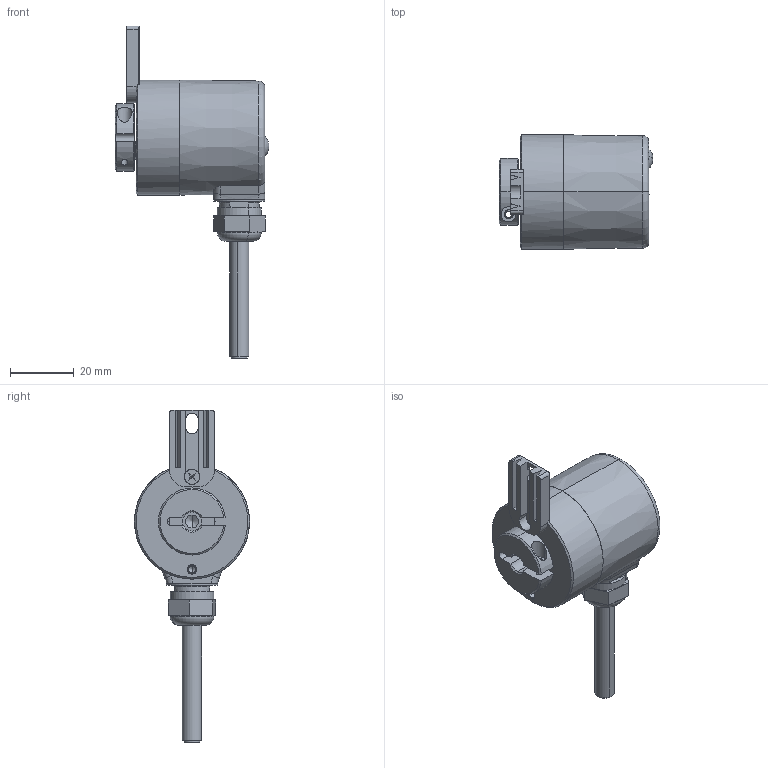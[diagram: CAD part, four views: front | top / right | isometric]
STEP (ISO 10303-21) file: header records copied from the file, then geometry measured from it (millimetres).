
FILE_DESCRIPTION (( 'STEP AP214' ), '1' );
FILE_NAME ('3671.22X2.XXXX.STEP', '2008-09-12T05:56:45', ( 'admin' ), ( 'Fritz Kübler GmbH' ), 'SwSTEP 2.0', 'SolidWorks 2008', '' );
FILE_SCHEMA (( 'AUTOMOTIVE_DESIGN' ));
Length unit declared in the file: millimetre
Products named in the file (1): 3671.22X2.XXXX
Bounding box: 48.19 x 36 x 103.9 mm (x, y, z)
Volume: 25101.9 mm3; surface area: 23289 mm2
Topology: 10 solids, 10 shells, 529 faces, 1224 edges, 746 vertices
Faces by surface type: cylinder 185, plane 147, cone 121, torus 63, bspline 7, sphere 6
Entity records: 21604 total; most frequent: CARTESIAN_POINT 3465, DIRECTION 2761, ORIENTED_EDGE 2408, EDGE_CURVE 1204, AXIS2_PLACEMENT_3D 1143, VERTEX_POINT 746, CIRCLE 620, EDGE_LOOP 598
